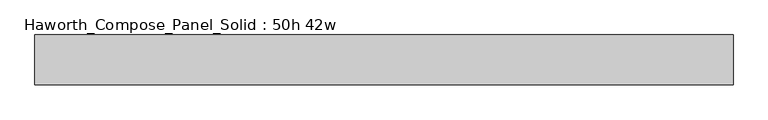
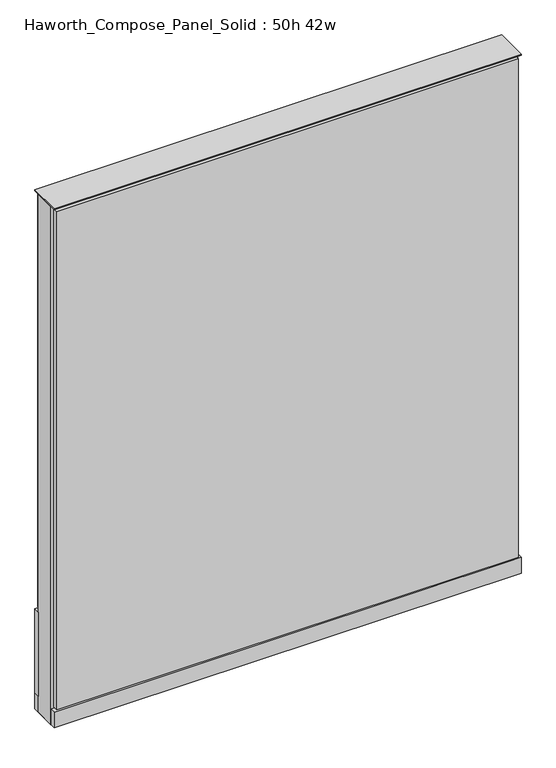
"""IFC4 building model written with IfcOpenShell, lengths in millimetres: furniture geometry, Haworth_Compose_Panel_Solid : 50h 42w."""

import ifcopenshell
import ifcopenshell.guid

model = None  # the IFC model being written
_history = None  # IfcOwnerHistory: only IFC2X3 demands one
_inside = {}  # id of a spatial element -> (the spatial element, [elements in it])
_under = {}  # id of a project, library or spatial element -> (it, [spatial elements below it])
_declared = {}  # id of a project -> (the project, [libraries it declares])
_typed = {}  # id of a type object -> (the type object, [elements of that type])
_made_of = {}  # id of a material, layer set ... -> (it, [elements and type objects made of it])


def new_model(schema):
    """Start an empty IFC model of exactly this schema.

    Asked for "IFC4X3", IfcOpenShell would pick the latest addendum, in which some entities
    have other attributes; the version numbers below select the first issue.
    IFC2X3 requires an IfcOwnerHistory on every rooted entity: one is made here for all.
    """
    global model, _history
    if schema == "IFC4X3":
        model = ifcopenshell.file(schema_version=(4, 3, 0, 0))
    else:
        model = ifcopenshell.file(schema=schema)
    _inside.clear()
    _under.clear()
    _declared.clear()
    _typed.clear()
    _made_of.clear()
    _history = None
    if model.schema == "IFC2X3":
        org = make("IfcOrganization", Name="unknown")
        user = make(
            "IfcPersonAndOrganization",
            ThePerson=make("IfcPerson", FamilyName="unknown"),
            TheOrganization=org,
        )
        app = make(
            "IfcApplication",
            ApplicationDeveloper=org,
            Version="unknown",
            ApplicationFullName="unknown",
            ApplicationIdentifier="unknown",
        )
        _history = make(
            "IfcOwnerHistory",
            OwningUser=user,
            OwningApplication=app,
            ChangeAction="ADDED",
            CreationDate=0,
        )
    return model


def make(cls, **values):
    """One entity of the class cls with the attributes given. An attribute that is None is left unset."""
    return model.create_entity(
        cls, **{name: value for name, value in values.items() if value is not None}
    )


def rooted(cls, **values):
    """An entity with a GlobalId (a new one), such as an element, a storey or a relation."""
    return make(cls, GlobalId=ifcopenshell.guid.new(), OwnerHistory=_history, **values)


def si_unit(unit_type, name, prefix=None):
    """IfcSIUnit, for example si_unit("LENGTHUNIT", "METRE", prefix="MILLI")."""
    return make("IfcSIUnit", UnitType=unit_type, Prefix=prefix, Name=name)


def assignment(units):
    """IfcUnitAssignment: the units of a project."""
    return None if units is None else make("IfcUnitAssignment", Units=units)


def point(xyz):
    """IfcCartesianPoint."""
    return None if xyz is None else make("IfcCartesianPoint", Coordinates=xyz)


def direction(xyz):
    """IfcDirection."""
    return None if xyz is None else make("IfcDirection", DirectionRatios=xyz)


def frame(location, z_axis=None, x_axis=None):
    """IfcAxis2Placement3D, a coordinate frame: its origin and axes. An axis left out is left unset."""
    return make(
        "IfcAxis2Placement3D",
        Location=point(location),
        Axis=direction(z_axis),
        RefDirection=direction(x_axis),
    )


def frame_2d(location, x_axis=None):
    """IfcAxis2Placement2D, a coordinate frame in the plane: its origin and x axis."""
    return make(
        "IfcAxis2Placement2D", Location=point(location), RefDirection=direction(x_axis)
    )


def origin():
    """The frame at (0, 0, 0) with its axes left unset."""
    return frame((0.0, 0.0, 0.0))


def origin_with_axes():
    """The frame at (0, 0, 0) with the z axis (0, 0, 1) and the x axis (1, 0, 0) written out."""
    return frame((0.0, 0.0, 0.0), z_axis=(0.0, 0.0, 1.0), x_axis=(1.0, 0.0, 0.0))


def place(relative_to, where):
    """IfcLocalPlacement: puts the frame where relative to a parent placement (None: the world)."""
    return make(
        "IfcLocalPlacement", PlacementRelTo=relative_to, RelativePlacement=where
    )


def context(
    kind, dimensions, precision=None, world=None, true_north=None, identifier=None
):
    """IfcGeometricRepresentationContext, for example the 3D "Model" context."""
    return make(
        "IfcGeometricRepresentationContext",
        ContextIdentifier=identifier,
        ContextType=kind,
        CoordinateSpaceDimension=dimensions,
        Precision=precision,
        WorldCoordinateSystem=world,
        TrueNorth=true_north,
    )


def project(units=None, contexts=None):
    """IfcProject with its units and contexts."""
    return rooted(
        "IfcProject",
        Name="project",
        RepresentationContexts=contexts,
        UnitsInContext=assignment(units),
    )


def spatial(cls, under=None, at=None, **own):
    """A site, building, storey or space (cls), placed at a placement, below another one or the project."""
    s = rooted(cls, ObjectPlacement=at, **own)
    if under is not None:
        _under.setdefault(under.id(), (under, []))[1].append(s)
    return s


def polyline(points):
    """IfcPolyline through the points."""
    return make("IfcPolyline", Points=[point(p) for p in points])


def circle_curve(where, radius):
    """IfcCircle in the frame where."""
    return make("IfcCircle", Position=where, Radius=radius)


def trimmed(basis, trim1, trim2, sense, master):
    """IfcTrimmedCurve: the piece of a basis curve between two trims."""
    return make(
        "IfcTrimmedCurve",
        BasisCurve=basis,
        Trim1=trim1,
        Trim2=trim2,
        SenseAgreement=sense,
        MasterRepresentation=master,
    )


def segment(curve, same_sense, transition):
    """IfcCompositeCurveSegment."""
    return make(
        "IfcCompositeCurveSegment",
        Transition=transition,
        SameSense=same_sense,
        ParentCurve=curve,
    )


def composite_curve(segments, self_intersect=None):
    """IfcCompositeCurve: segments joined end to end."""
    return make("IfcCompositeCurve", Segments=segments, SelfIntersect=self_intersect)


def outline(outer, holes=None, kind="AREA"):
    """IfcArbitraryClosedProfileDef: a profile drawn as a closed curve; with holes, ...WithVoids."""
    if holes is None:
        return make("IfcArbitraryClosedProfileDef", ProfileType=kind, OuterCurve=outer)
    return make(
        "IfcArbitraryProfileDefWithVoids",
        ProfileType=kind,
        OuterCurve=outer,
        InnerCurves=holes,
    )


def extrude(swept, where, along, depth):
    """IfcExtrudedAreaSolid: the profile swept, set in the frame where, extruded along a direction by depth."""
    return make(
        "IfcExtrudedAreaSolid",
        SweptArea=swept,
        Position=where,
        ExtrudedDirection=direction(along),
        Depth=depth,
    )


def shape(context_of_items, identifier, shape_type, items):
    """IfcShapeRepresentation: the items that make up one representation, for example the "Body"."""
    return make(
        "IfcShapeRepresentation",
        ContextOfItems=context_of_items,
        RepresentationIdentifier=identifier,
        RepresentationType=shape_type,
        Items=items,
    )


def source(mapping_origin, context_of_items, identifier, shape_type, items):
    """IfcRepresentationMap: a shape defined once, which mapped items show again and again."""
    return make(
        "IfcRepresentationMap",
        MappingOrigin=mapping_origin,
        MappedRepresentation=shape(context_of_items, identifier, shape_type, items),
    )


def transform(
    local_origin,
    x_axis=None,
    y_axis=None,
    z_axis=None,
    scale=None,
    scale2=None,
    scale3=None,
    uniform=True,
):
    """IfcCartesianTransformationOperator3D, or its non-uniform kind. x_axis, y_axis, z_axis: its Axis1, 2, 3."""
    if uniform:
        return make(
            "IfcCartesianTransformationOperator3D",
            Axis1=direction(x_axis),
            Axis2=direction(y_axis),
            LocalOrigin=point(local_origin),
            Scale=scale,
            Axis3=direction(z_axis),
        )
    return make(
        "IfcCartesianTransformationOperator3DnonUniform",
        Axis1=direction(x_axis),
        Axis2=direction(y_axis),
        LocalOrigin=point(local_origin),
        Scale=scale,
        Axis3=direction(z_axis),
        Scale2=scale2,
        Scale3=scale3,
    )


def mapped(mapping_source, mapping_target):
    """IfcMappedItem: shows the shape of a source again, moved by a transform."""
    return make(
        "IfcMappedItem", MappingSource=mapping_source, MappingTarget=mapping_target
    )


def made_of(thing, what):
    """Note that an element or type object is made of a material, layer set ...; save() writes the relation."""
    if what is not None:
        _made_of.setdefault(what.id(), (what, []))[1].append(thing)
    return thing


def element(
    cls,
    number,
    at=None,
    inside=None,
    cuts=None,
    type_object=None,
    material=None,
    context=None,
    identifier="Body",
    shape_type=None,
    held_by="IfcProductDefinitionShape",
    body=None,
    shapes=None,
    **own,
):
    """One element of the class cls, such as IfcWall. Its Tag is "e" and its number.

    at: its placement. inside: the storey or other place that contains it. cuts: it is an
    opening in that element (IfcRelVoidsElement). A single representation is given by context,
    identifier, shape_type and body (its items); several are given by shapes. held_by: the class
    of the entity that holds the representations. save() writes the other relations.
    """
    e = rooted(cls, Tag="e%d" % number, ObjectPlacement=at, **own)
    if body is not None:
        shapes = [shape(context, identifier, shape_type, body)]
    if shapes is not None:
        e.Representation = make(held_by, Representations=shapes)
    if inside is not None:
        _inside.setdefault(inside.id(), (inside, []))[1].append(e)
    if cuts is not None:
        rooted(
            "IfcRelVoidsElement", RelatingBuildingElement=cuts, RelatedOpeningElement=e
        )
    if type_object is not None:
        _typed.setdefault(type_object.id(), (type_object, []))[1].append(e)
    return made_of(e, material)


def aggregate(whole, parts):
    """IfcRelAggregates: a whole, such as a stair, and the parts it consists of."""
    return rooted("IfcRelAggregates", RelatingObject=whole, RelatedObjects=parts)


def save(model, path):
    """Write the relations noted so far, then the file.

    IfcRelAggregates (storeys below a building ...), IfcRelContainedInSpatialStructure (elements
    in a storey), IfcRelDefinesByType, IfcRelAssociatesMaterial and IfcRelDeclares: one each for
    every whole, place, type object, material and project.
    """
    for whole, parts in _under.values():
        aggregate(whole, parts)
    for where, things in _inside.values():
        rooted(
            "IfcRelContainedInSpatialStructure",
            RelatedElements=things,
            RelatingStructure=where,
        )
    for kind, things in _typed.values():
        rooted("IfcRelDefinesByType", RelatedObjects=things, RelatingType=kind)
    for what, things in _made_of.values():
        rooted("IfcRelAssociatesMaterial", RelatedObjects=things, RelatingMaterial=what)
    for by, libraries in _declared.values():
        rooted("IfcRelDeclares", RelatingContext=by, RelatedDefinitions=libraries)
    model.write(path)


def haworth_compose_panel_solid_50h_42w_afb3ee46(model_context):
    return source(origin(), model_context, "Body", "SweptSolid", [
        extrude(outline(composite_curve([segment(trimmed(circle_curve(frame_2d((-454.7597098, 0.0)), 12.7), [point((-467.4597098, 0.0))], [point((-442.0597098, 0.0))], False, "CARTESIAN"), True, "CONTINUOUS"), segment(trimmed(circle_curve(frame_2d((-454.7597098, 0.0)), 12.7), [point((-442.0597098, 0.0))], [point((-467.4597098, 0.0))], False, "CARTESIAN"), True, "CONTINUOUS")], self_intersect=False)), origin_with_axes(), (0.0, 0.0, 1.0), 12.7),
        extrude(outline(composite_curve([segment(trimmed(circle_curve(frame_2d((459.6402902, 0.0)), 12.7), [point((446.9402902, 0.0))], [point((472.3402902, 0.0))], False, "CARTESIAN"), True, "CONTINUOUS"), segment(trimmed(circle_curve(frame_2d((459.6402902, 0.0)), 12.7), [point((472.3402902, 0.0))], [point((446.9402902, 0.0))], False, "CARTESIAN"), True, "CONTINUOUS")], self_intersect=False)), origin_with_axes(), (0.0, 0.0, 1.0), 12.7),
        extrude(outline(polyline([(529.4902902, 38.1), (529.4902902, 25.4), (-524.6097098, 25.4), (-524.6097098, 38.1), (529.4902902, 38.1)])), frame((0.0, 0.0, 257.175), z_axis=(0.0, 0.0, 1.0), x_axis=(1.0, 0.0, 0.0)), (0.0, 0.0, 1.0), 1000.125),
        extrude(outline(polyline([(535.8402902, 38.1), (535.8402902, 25.4), (-530.9597098, 25.4), (-530.9597098, 38.1), (535.8402902, 38.1)])), frame((0.0, 0.0, 50.8), z_axis=(0.0, 0.0, 1.0), x_axis=(1.0, 0.0, 0.0)), (0.0, 0.0, 1.0), 203.2),
        extrude(outline(polyline([(529.4902902, -38.1), (-524.6097098, -38.1), (-524.6097098, -25.4), (529.4902902, -25.4), (529.4902902, -38.1)])), frame((0.0, 0.0, 53.975), z_axis=(0.0, 0.0, 1.0), x_axis=(1.0, 0.0, 0.0)), (0.0, 0.0, 1.0), 1203.325),
        extrude(outline(polyline([(535.8402902, 25.4), (535.8402902, -25.4), (-530.9597098, -25.4), (-530.9597098, 25.4), (535.8402902, 25.4)])), frame((0.0, 0.0, 12.7), z_axis=(0.0, 0.0, 1.0), x_axis=(1.0, 0.0, 0.0)), (0.0, 0.0, 1.0), 1250.95),
        extrude(outline(polyline([(-530.9597098, -38.1), (-530.9597098, 38.1), (535.8402902, 38.1), (535.8402902, -38.1), (-530.9597098, -38.1)])), frame((0.0, 0.0, 12.7), z_axis=(0.0, 0.0, 1.0), x_axis=(1.0, 0.0, 0.0)), (0.0, 0.0, 1.0), 38.1),
        extrude(outline(polyline([(-530.9597098, -38.1), (-530.9597098, 38.1), (535.8402902, 38.1), (535.8402902, -38.1), (-530.9597098, -38.1)])), frame((0.0, 0.0, 1263.65), z_axis=(0.0, 0.0, 1.0), x_axis=(1.0, 0.0, 0.0)), (0.0, 0.0, 1.0), 3.175),
    ])


if __name__ == "__main__":
    model = new_model("IFC4")
    model_context = context("Model", 3, world=origin())
    ifc_project = project(units=[si_unit("LENGTHUNIT", "METRE", prefix="MILLI")], contexts=[model_context])
    site = spatial("IfcSite", under=ifc_project)
    building = spatial("IfcBuilding", under=site)
    placement = place(None, origin())
    haworth_compose_panel_solid_50h_42w_shape = haworth_compose_panel_solid_50h_42w_afb3ee46(model_context)
    element("IfcFurniture", 1, ObjectType="Haworth_Compose_Panel_Solid : 50h 42w", at=placement, inside=building, context=model_context, shape_type="MappedRepresentation", body=[
        mapped(haworth_compose_panel_solid_50h_42w_shape, transform((0.0, 0.0, 0.0), x_axis=(1.0, 0.0, 0.0), y_axis=(0.0, 1.0, 0.0), z_axis=(0.0, 0.0, 1.0))),
    ])
    save(model, "model.ifc")
